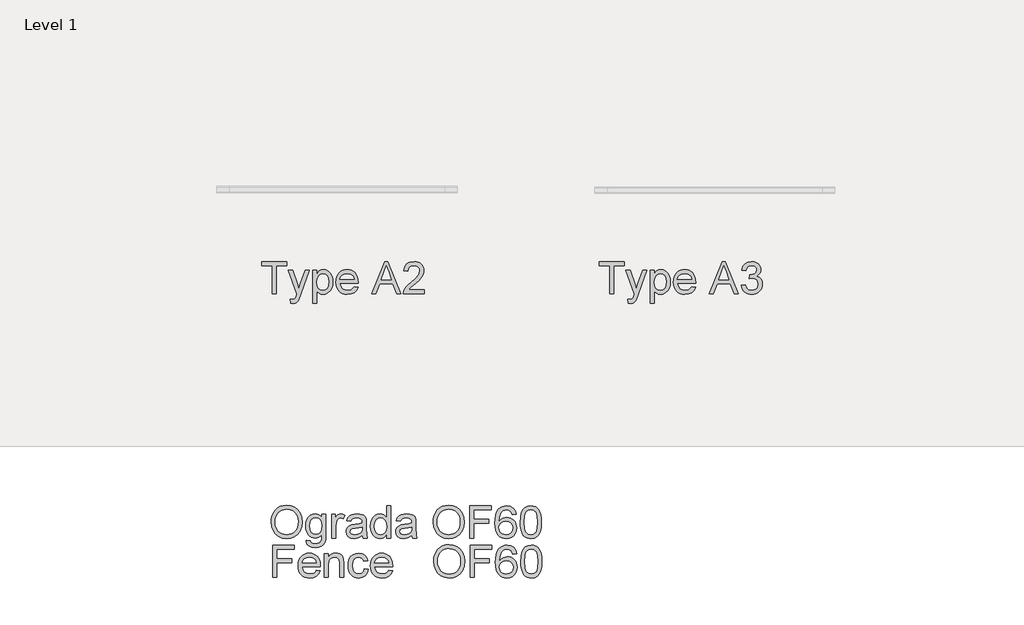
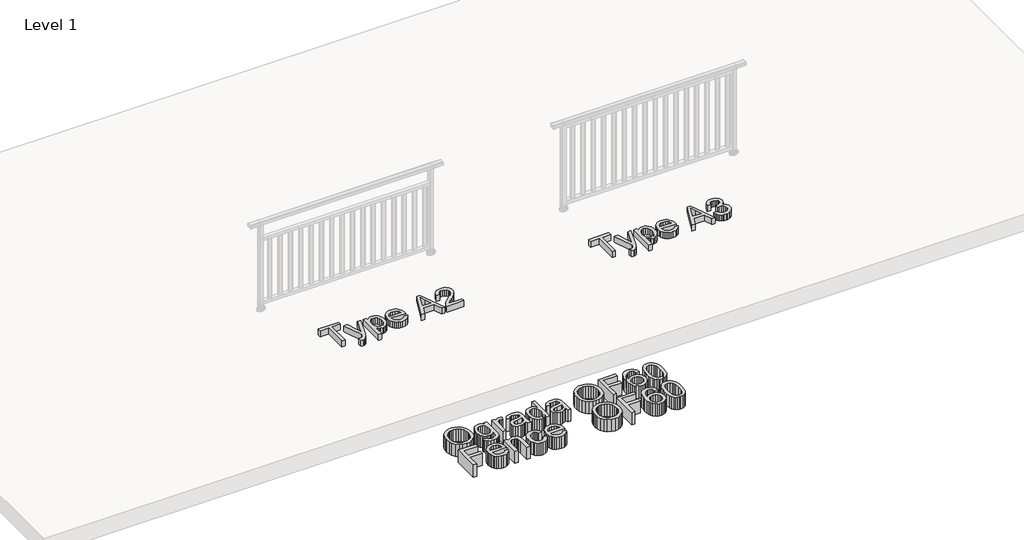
# One storey, part 7 of 9: 3 proxies.
"""IFC4 building model written with IfcOpenShell, lengths in millimetres."""

from ifc_helpers import new_model, si_unit, origin, origin_with_axes, place, context, project, spatial, polyline, outline, extrude, element, save

model = new_model("IFC4")

# Units and contexts
model_context = context("Model", 3, world=origin())
ifc_project = project(units=[si_unit("LENGTHUNIT", "METRE", prefix="MILLI")], contexts=[model_context])

# Site, building, storey
site = spatial("IfcSite", under=ifc_project)
building = spatial("IfcBuilding", under=site)
storey = spatial("IfcBuildingStorey", under=building, Name="Level 1", Elevation=0.0)

# Proxies
placement = place(None, origin())
element("IfcBuildingElementProxy", 1, Name="600mm Arial", ObjectType="600mm Arial", at=placement, inside=storey, context=model_context, shape_type="SweptSolid", body=[
    extrude(outline(polyline([(808.0220395, -4036.6900084), (810.5328342, -4001.3411472), (818.065218, -3970.048185), (830.6191911, -3942.8111218), (848.1947534, -3919.6299576), (869.7388428, -3901.1208947), (894.1983969, -3887.9001355), (921.5734159, -3879.96768), (951.8638997, -3877.3235281), (991.39282, -3882.2899351), (1026.8382503, -3897.1891559), (1056.2688099, -3920.9727269), (1077.7531184, -3952.5921843), (1090.8865056, -3990.520818), (1095.2643014, -4033.2319177), (1090.6565794, -4076.5132344), (1076.8334134, -4114.975297), (1054.5581586, -4146.6499368), (1024.5941701, -4169.5689851), (989.4522425, -4183.4749245), (951.6431705, -4188.1102376), (911.5072448, -4182.9874809), (875.8594795, -4167.6192105), (846.5024962, -4143.3941811), (825.2389169, -4111.7011473), (812.3262589, -4075.2348445), (808.0220395, -4036.6900084)]), holes=[polyline([(845.6931558, -4037.0578904), (847.5762518, -4062.0324794), (853.2255397, -4084.2019681), (862.6410195, -4103.5663566), (875.8226913, -4120.1256449), (891.8462514, -4133.3877909), (909.7873965, -4142.8607522), (929.6461264, -4148.5445291), (951.4224413, -4150.4391213), (973.5712366, -4148.526135), (993.6644914, -4142.7871758), (1011.7022054, -4133.222244), (1027.6843789, -4119.8313393), (1040.7694816, -4102.9225631), (1050.1159835, -4082.8040165), (1055.7238847, -4059.4756995), (1057.5931851, -4032.9376121), (1054.3926117, -3999.5891092), (1044.7908916, -3970.7655549), (1029.0363452, -3947.1935161), (1007.3772927, -3929.5995596), (981.248474, -3918.6458732), (952.0846289, -3914.9946444), (931.0647714, -3916.7535802), (911.5624271, -3922.0303876), (893.577596, -3930.8250665), (877.1102782, -3943.1376171), (863.3652872, -3959.5612489), (853.5474364, -3980.6891717), (847.656726, -4006.5213856), (845.6931558, -4037.0578904)])]), origin_with_axes(), (0.0, 0.0, 1.0), 150.0),
    extrude(outline(polyline([(1132.9354177, -4202.2369063), (1170.606534, -4206.9457958), (1174.7636005, -4218.7180196), (1182.8202162, -4226.8114235), (1198.6575361, -4233.1022057), (1219.3876865, -4235.199133), (1241.4973945, -4232.8262942), (1257.9417196, -4225.7077776), (1269.3460615, -4214.3034357), (1276.3358194, -4199.0731211), (1278.9109934, -4155.1480109), (1266.3754144, -4167.5088459), (1252.3867015, -4176.3380138), (1236.9448548, -4181.6355145), (1220.0498741, -4183.4013481), (1199.3955994, -4181.3458075), (1181.2107325, -4175.1791855), (1165.4952735, -4164.9014823), (1152.2492224, -4150.5126977), (1141.7392937, -4133.2498351), (1134.2322017, -4114.3498976), (1129.7279465, -4093.8128852), (1128.2265281, -4071.638798), (1130.9212638, -4041.224154), (1139.0054706, -4013.2559253), (1152.1940401, -3989.5551278), (1170.2018638, -3971.9427773), (1192.4127393, -3961.016682), (1218.2104642, -3957.3746503), (1235.8274132, -3959.4347894), (1251.8164844, -3965.615207), (1266.1776778, -3975.9159028), (1278.9109934, -3990.336877), (1278.9109934, -3962.0835398), (1316.5821097, -3962.0835398), (1316.5821097, -4153.1614481), (1314.0069357, -4197.2796964), (1306.2814138, -4226.3331769), (1292.9732826, -4245.6009964), (1273.6502808, -4260.3622615), (1248.7354727, -4269.7432524), (1218.6519226, -4272.8702493), (1183.6019655, -4268.4648624), (1156.0016188, -4255.2487018), (1145.6066532, -4245.3273842), (1138.2972978, -4233.1849791), (1134.0735526, -4218.8214865), (1132.9354177, -4202.2369063)]), holes=[polyline([(1165.8976445, -4069.063624), (1169.9167552, -4103.6169404), (1181.9740876, -4127.3729202), (1200.101473, -4141.1409039), (1222.3307425, -4145.7302318), (1244.3944652, -4141.1684951), (1262.613821, -4127.4832848), (1274.8367003, -4104.0308077), (1278.9109934, -4070.16727), (1274.7171386, -4037.5085459), (1262.1355744, -4013.9916893), (1243.6495041, -3999.7822473), (1221.7421313, -3995.0457666), (1200.2302316, -3999.7086709), (1182.1948168, -4013.6973837), (1169.9719375, -4036.8647524), (1165.8976445, -4069.063624)])]), origin_with_axes(), (0.0, 0.0, 1.0), 150.0),
    extrude(outline(polyline([(1373.0887841, -4183.4013481), (1373.0887841, -3962.0835398), (1406.0510109, -3962.0835398), (1406.0510109, -3994.8250374), (1418.2279049, -3975.8423264), (1429.4483058, -3964.6587138), (1440.7054948, -3959.1956661), (1452.9927535, -3957.3746503), (1471.7547352, -3960.280918), (1490.8110226, -3968.9997213), (1478.2294584, -4002.7712885), (1464.9857065, -3996.9771471), (1451.7419547, -3995.0457666), (1440.4939627, -3996.9035707), (1430.4415872, -4002.4769829), (1422.3205921, -4011.342939), (1416.8667416, -4023.0783746), (1412.2866107, -4044.1212247), (1410.7599004, -4067.0770612), (1410.7599004, -4183.4013481), (1373.0887841, -4183.4013481)])), origin_with_axes(), (0.0, 0.0, 1.0), 150.0),
    extrude(outline(polyline([(1655.6221564, -4155.1480109), (1637.6235298, -4170.5806606), (1619.0914743, -4180.6790213), (1599.6029256, -4186.2524336), (1578.7348194, -4188.1102376), (1547.2533177, -4183.6404714), (1524.0307668, -4170.2311727), (1509.7109601, -4149.8689042), (1504.9376912, -4124.5402289), (1506.740313, -4108.9236382), (1512.1481783, -4094.7417873), (1520.4899026, -4082.6016814), (1531.0941011, -4073.110326), (1557.4712401, -4060.7494909), (1590.0655849, -4055.0841082), (1628.5828298, -4049.1244199), (1655.4014272, -4042.134662), (1655.6221564, -4033.7469525), (1653.0285884, -4016.9347453), (1645.2478842, -4005.9350736), (1627.8470658, -3997.7680933), (1603.6036423, -3995.0457666), (1581.1628406, -3996.8575854), (1565.4910676, -4002.2930419), (1554.8040957, -4012.3454174), (1547.317697, -4028.0079933), (1509.6465807, -4023.2991038), (1516.1856832, -4002.6977121), (1525.9437531, -3986.5109043), (1539.8312984, -3974.1316752), (1558.7588271, -3964.9530194), (1581.9078016, -3959.2692425), (1608.4596846, -3957.3746503), (1633.9263158, -3959.0485134), (1654.1138402, -3964.0701026), (1669.3349578, -3971.6208805), (1679.9023681, -3980.8823098), (1686.9105201, -3992.3326369), (1691.4538628, -4006.4501084), (1693.2932727, -4039.4123352), (1693.2932727, -4086.2805014), (1695.2062591, -4151.7267083), (1702.7110518, -4183.4013481), (1665.0399355, -4183.4013481), (1655.6221564, -4155.1480109)]), holes=[polyline([(1655.6221564, -4079.8057783), (1594.8480508, -4091.3572729), (1562.4376471, -4097.464114), (1547.7591554, -4107.3969279), (1542.6088075, -4121.8914785), (1545.4139077, -4133.0934853), (1553.8292084, -4142.272141), (1567.6707684, -4148.3973763), (1586.7546469, -4150.4391213), (1606.9881567, -4148.1858441), (1624.8672216, -4141.4260125), (1639.3617722, -4131.4656074), (1649.4417389, -4119.6106101), (1653.9115052, -4107.3969279), (1655.4014272, -4090.4743561), (1655.6221564, -4079.8057783)])]), origin_with_axes(), (0.0, 0.0, 1.0), 150.0),
    extrude(outline(polyline([(1881.6488543, -4183.4013481), (1881.6488543, -4147.8639474), (1870.3778696, -4165.4716994), (1856.7248491, -4178.0486651), (1840.6897926, -4185.5948445), (1822.2727002, -4188.1102376), (1797.9189122, -4184.4682059), (1775.6252633, -4173.5421106), (1756.7529169, -4156.095307), (1742.6630365, -4132.8911502), (1733.8890509, -4104.8677392), (1730.964389, -4072.9631732), (1733.6591247, -4041.4540803), (1741.7433315, -4012.9984079), (1755.2078125, -3989.214837), (1774.0433707, -3971.7220481), (1796.8244632, -3960.9614997), (1822.1255474, -3957.3746503), (1840.5564354, -3959.9406272), (1856.8536078, -3967.6385579), (1870.6675767, -3979.4383729), (1881.6488543, -3994.3100026), (1881.6488543, -3882.0324177), (1919.3199706, -3882.0324177), (1919.3199706, -4183.4013481), (1881.6488543, -4183.4013481)]), holes=[polyline([(1768.6355053, -4072.8160204), (1772.8845424, -4106.8910902), (1785.6316535, -4131.1253166), (1804.154512, -4145.6106702), (1825.730791, -4150.4391213), (1847.297873, -4145.8313994), (1865.3516819, -4132.0082334), (1877.5745612, -4108.712106), (1881.6488543, -4075.6854999), (1877.5009848, -4039.5778821), (1865.0573763, -4014.5435123), (1846.5437149, -3999.920203), (1824.1856866, -3995.0457666), (1802.3886784, -3999.727065), (1784.5280075, -4013.7709601), (1772.6086309, -4037.894822), (1768.6355053, -4072.8160204)])]), origin_with_axes(), (0.0, 0.0, 1.0), 150.0),
    extrude(outline(polyline([(2117.0933312, -4155.1480109), (2099.0947046, -4170.5806606), (2080.5626491, -4180.6790213), (2061.0741004, -4186.2524336), (2040.2059942, -4188.1102376), (2008.7244924, -4183.6404714), (1985.5019415, -4170.2311727), (1971.1821348, -4149.8689042), (1966.408866, -4124.5402289), (1968.2114877, -4108.9236382), (1973.6193531, -4094.7417873), (1981.9610773, -4082.6016814), (1992.5652758, -4073.110326), (2018.9424149, -4060.7494909), (2051.5367596, -4055.0841082), (2090.0540045, -4049.1244199), (2116.872602, -4042.134662), (2117.0933312, -4033.7469525), (2114.4997631, -4016.9347453), (2106.7190589, -4005.9350736), (2089.3182405, -3997.7680933), (2065.0748171, -3995.0457666), (2042.6340154, -3996.8575854), (2026.9622424, -4002.2930419), (2016.2752704, -4012.3454174), (2008.7888718, -4028.0079933), (1971.1177555, -4023.2991038), (1977.656858, -4002.6977121), (1987.4149279, -3986.5109043), (2001.3024732, -3974.1316752), (2020.2300018, -3964.9530194), (2043.3789764, -3959.2692425), (2069.9308594, -3957.3746503), (2095.3974905, -3959.0485134), (2115.585015, -3964.0701026), (2130.8061325, -3971.6208805), (2141.3735429, -3980.8823098), (2148.3816949, -3992.3326369), (2152.9250375, -4006.4501084), (2154.7644475, -4039.4123352), (2154.7644475, -4086.2805014), (2156.6774339, -4151.7267083), (2164.1822266, -4183.4013481), (2126.5111103, -4183.4013481), (2117.0933312, -4155.1480109)]), holes=[polyline([(2117.0933312, -4079.8057783), (2056.3192256, -4091.3572729), (2023.9088218, -4097.464114), (2009.2303302, -4107.3969279), (2004.0799823, -4121.8914785), (2006.8850825, -4133.0934853), (2015.3003831, -4142.272141), (2029.1419432, -4148.3973763), (2048.2258217, -4150.4391213), (2068.4593314, -4148.1858441), (2086.3383964, -4141.4260125), (2100.832947, -4131.4656074), (2110.9129137, -4119.6106101), (2115.3826799, -4107.3969279), (2116.872602, -4090.4743561), (2117.0933312, -4079.8057783)])]), origin_with_axes(), (0.0, 0.0, 1.0), 150.0),
    extrude(outline(polyline([(2314.8666918, -4036.6900084), (2317.3774864, -4001.3411472), (2324.9098703, -3970.048185), (2337.4638433, -3942.8111218), (2355.0394057, -3919.6299576), (2376.583495, -3901.1208947), (2401.0430492, -3887.9001355), (2428.4180681, -3879.96768), (2458.7085519, -3877.3235281), (2498.2374723, -3882.2899351), (2533.6829025, -3897.1891559), (2563.1134621, -3920.9727269), (2584.5977706, -3952.5921843), (2597.7311579, -3990.520818), (2602.1089536, -4033.2319177), (2597.5012316, -4076.5132344), (2583.6780657, -4114.975297), (2561.4028109, -4146.6499368), (2531.4388223, -4169.5689851), (2496.2968948, -4183.4749245), (2458.4878227, -4188.1102376), (2418.351897, -4182.9874809), (2382.7041317, -4167.6192105), (2353.3471485, -4143.3941811), (2332.0835692, -4111.7011473), (2319.1709111, -4075.2348445), (2314.8666918, -4036.6900084)]), holes=[polyline([(2352.5378081, -4037.0578904), (2354.4209041, -4062.0324794), (2360.0701919, -4084.2019681), (2369.4856718, -4103.5663566), (2382.6673435, -4120.1256449), (2398.6909036, -4133.3877909), (2416.6320487, -4142.8607522), (2436.4907787, -4148.5445291), (2458.2670935, -4150.4391213), (2480.4158889, -4148.526135), (2500.5091436, -4142.7871758), (2518.5468577, -4133.222244), (2534.5290311, -4119.8313393), (2547.6141338, -4102.9225631), (2556.9606358, -4082.8040165), (2562.5685369, -4059.4756995), (2564.4378373, -4032.9376121), (2561.237264, -3999.5891092), (2551.6355439, -3970.7655549), (2535.8809974, -3947.1935161), (2514.221945, -3929.5995596), (2488.0931263, -3918.6458732), (2458.9292811, -3914.9946444), (2437.9094236, -3916.7535802), (2418.4070793, -3922.0303876), (2400.4222483, -3930.8250665), (2383.9549305, -3943.1376171), (2370.2099394, -3959.5612489), (2360.3920887, -3980.6891717), (2354.5013782, -4006.5213856), (2352.5378081, -4037.0578904)])]), origin_with_axes(), (0.0, 0.0, 1.0), 150.0),
    extrude(outline(polyline([(2653.9067385, -4183.4013481), (2653.9067385, -3882.0324177), (2856.3889887, -3882.0324177), (2856.3889887, -3919.703534), (2691.5778548, -3919.703534), (2691.5778548, -4009.1724352), (2832.844541, -4009.1724352), (2832.844541, -4046.8435515), (2691.5778548, -4046.8435515), (2691.5778548, -4183.4013481), (2653.9067385, -4183.4013481)])), origin_with_axes(), (0.0, 0.0, 1.0), 150.0),
    extrude(outline(polyline([(3087.1245761, -3962.0835398), (3049.4534598, -3966.7924294), (3043.3834068, -3948.1224181), (3035.1796383, -3935.375307), (3018.0915197, -3923.6214772), (2997.4349456, -3919.703534), (2979.9237627, -3921.9844023), (2963.4426493, -3928.8270074), (2949.2883895, -3943.2387846), (2937.7276978, -3963.0768212), (2929.9194025, -3991.1370204), (2927.0223318, -4030.2152853), (2942.1330847, -4012.5845407), (2960.2420759, -4000.1593263), (2980.3376299, -3992.7924894), (3001.4080712, -3990.336877), (3019.5078653, -3992.0153386), (3036.2097079, -3997.0507235), (3051.5135989, -4005.4430315), (3065.4195383, -4017.1922627), (3076.9756315, -4031.5994413), (3085.2299838, -4047.9655916), (3090.1825951, -4066.2907135), (3091.8334656, -4086.574807), (3088.7248627, -4113.5497543), (3079.3990542, -4138.5565329), (3064.6285921, -4159.7649299), (3045.1860286, -4175.3447324), (3021.9542806, -4184.9188613), (2995.8162649, -4188.1102376), (2973.3593683, -4185.9949162), (2953.0775741, -4179.6489518), (2934.9708821, -4169.0723444), (2919.0392925, -4154.2650941), (2906.0507588, -4134.6018014), (2896.7732347, -4109.4570671), (2891.2067203, -4078.830891), (2889.3512155, -4042.7232732), (2891.4113546, -4002.2424581), (2897.5917721, -3967.6937402), (2907.892468, -3939.0771195), (2922.3134422, -3916.392596), (2937.9438285, -3901.360018), (2956.0666153, -3890.6224622), (2976.6818026, -3884.1799288), (2999.7893904, -3882.0324177), (3032.8435877, -3887.3483125), (3059.3126972, -3903.295997), (3077.8539498, -3928.6246724), (3087.1245761, -3962.0835398)]), holes=[polyline([(2927.0223318, -4085.9861958), (2929.2020326, -4102.6788413), (2935.741135, -4118.6173288), (2945.8946781, -4132.3209331), (2958.9177007, -4142.3089292), (2974.635459, -4148.4065733), (2992.8732089, -4150.4391213), (3017.7328347, -4146.2268725), (3037.2765657, -4133.590126), (3049.9409034, -4113.7244982), (3054.1623493, -4087.8256058), (3049.9960857, -4062.9659799), (3037.4972949, -4044.0108601), (3017.6224701, -4032.00871), (2991.3281045, -4028.0079933), (2966.5052669, -4032.00871), (2945.7475253, -4044.0108601), (2931.7036301, -4062.5061274), (2927.0223318, -4085.9861958)])]), origin_with_axes(), (0.0, 0.0, 1.0), 150.0),
    extrude(outline(polyline([(3124.7956924, -4035.1449041), (3127.5640044, -3986.9063774), (3135.8689404, -3948.4351178), (3149.627727, -3919.1425139), (3168.7575908, -3898.4399546), (3193.3964874, -3886.1343019), (3223.6823727, -3882.0324177), (3246.8957266, -3884.4604388), (3267.6810593, -3891.7445023), (3285.0634836, -3903.5994996), (3298.0681121, -3919.7403222), (3307.8905614, -3940.0290142), (3315.7264479, -3964.32762), (3320.8584017, -3995.1837223), (3322.569053, -4035.1449041), (3319.8283321, -4083.1075192), (3311.6061695, -4121.4868083), (3297.9301563, -4150.8070033), (3278.8278837, -4171.5923361), (3254.1338048, -4183.9807623), (3223.6823727, -4188.1102376), (3202.9338281, -4186.3168129), (3184.5397284, -4180.9365387), (3168.5000734, -4171.9694151), (3154.8148632, -4159.415442), (3141.6814759, -4136.7217214), (3132.3004851, -4108.4453916), (3126.6718905, -4074.5864525), (3124.7956924, -4035.1449041)]), holes=[polyline([(3162.4668087, -4035.0713277), (3166.8813926, -4094.32792), (3172.3996225, -4114.5959187), (3180.1251444, -4128.623719), (3199.8436194, -4144.9852708), (3223.6823727, -4150.4391213), (3247.521126, -4144.9668767), (3267.2396009, -4128.5501426), (3274.9651228, -4114.4993497), (3280.4833527, -4094.2359495), (3284.8979367, -4035.0713277), (3280.6305055, -3977.1483075), (3275.2962166, -3956.9469875), (3267.8282121, -3942.5857941), (3248.1465254, -3925.424099), (3223.2409143, -3919.703534), (3199.6596784, -3924.7435173), (3180.7137556, -3939.8634673), (3172.7307163, -3955.4984521), (3167.0285454, -3976.5780904), (3162.4668087, -4035.0713277)])]), origin_with_axes(), (0.0, 0.0, 1.0), 150.0),
    extrude(outline(polyline([(822.1487082, -4549.3258016), (822.1487082, -4247.9568712), (1024.6309583, -4247.9568712), (1024.6309583, -4285.6279875), (859.8198245, -4285.6279875), (859.8198245, -4375.0968887), (1001.0865106, -4375.0968887), (1001.0865106, -4412.768005), (859.8198245, -4412.768005), (859.8198245, -4549.3258016), (822.1487082, -4549.3258016)])), origin_with_axes(), (0.0, 0.0, 1.0), 150.0),
    extrude(outline(polyline([(1226.6717501, -4483.4013481), (1263.6071024, -4488.1102376), (1250.2989712, -4515.9405106), (1229.062983, -4536.7442374), (1200.3773844, -4549.7120777), (1164.7204221, -4554.0346912), (1141.3461198, -4552.1699893), (1120.5194003, -4546.5758837), (1102.2402637, -4537.2523744), (1086.5087099, -4524.1994614), (1073.8581678, -4507.7804281), (1064.8220663, -4488.358558), (1059.4004054, -4465.9338511), (1057.5931851, -4440.5063075), (1059.4187995, -4414.2165404), (1064.8956427, -4391.0445732), (1074.0237147, -4370.990406), (1086.8030155, -4354.0540386), (1102.4931826, -4340.5987546), (1120.3538534, -4330.9878375), (1140.3850281, -4325.2212872), (1162.5867065, -4323.2991038), (1184.0733143, -4325.2166887), (1203.5043814, -4330.9694434), (1220.8799079, -4340.5573679), (1236.1998937, -4353.9804622), (1248.7055823, -4370.8800414), (1257.638217, -4390.8974204), (1262.9977978, -4414.0325994), (1264.7843248, -4440.2855783), (1264.5635956, -4450.4391213), (1095.2643014, -4450.4391213), (1101.7850097, -4478.6372763), (1116.9325509, -4499.3674267), (1138.7939385, -4512.1145378), (1165.4561861, -4516.3635749), (1185.5057548, -4514.3954062), (1202.3915384, -4508.4909002), (1216.1135368, -4498.2821748), (1226.6717501, -4483.4013481)]), holes=[polyline([(1095.2643014, -4412.768005), (1227.1132084, -4412.768005), (1222.0180428, -4392.8655891), (1212.0300466, -4378.6285559), (1190.0674915, -4365.3848041), (1162.4395537, -4360.9702201), (1137.046499, -4364.4926902), (1116.0496341, -4375.0601005), (1101.4539159, -4391.5320169), (1095.2643014, -4412.768005)])]), origin_with_axes(), (0.0, 0.0, 1.0), 150.0),
    extrude(outline(polyline([(1302.4554411, -4549.3258016), (1302.4554411, -4328.0079933), (1340.1265574, -4328.0079933), (1340.1265574, -4358.9100809), (1353.2139593, -4343.3302784), (1368.9317176, -4332.2018481), (1387.2798321, -4325.5247899), (1408.2583029, -4323.2991038), (1426.8271466, -4325.0925285), (1443.8324918, -4330.4728027), (1458.0143427, -4338.7685417), (1468.1127035, -4349.3083609), (1479.4066807, -4377.0098751), (1481.3932435, -4413.4301926), (1481.3932435, -4549.3258016), (1443.7221272, -4549.3258016), (1443.7221272, -4418.5069642), (1439.3811197, -4385.1768554), (1433.3754461, -4375.2532386), (1424.0404405, -4367.5553078), (1412.0750786, -4362.616492), (1398.1783362, -4360.9702201), (1376.1146135, -4364.6674342), (1357.3066465, -4375.7590763), (1349.7903575, -4384.8135719), (1344.4215797, -4397.1882025), (1340.1265574, -4431.8978688), (1340.1265574, -4549.3258016), (1302.4554411, -4549.3258016)])), origin_with_axes(), (0.0, 0.0, 1.0), 150.0),
    extrude(outline(polyline([(1674.4577146, -4469.2746795), (1712.1288309, -4473.983569), (1701.6257999, -4507.4884217), (1681.8889309, -4532.8079001), (1654.7760278, -4548.7279934), (1622.1448949, -4554.0346912), (1601.016972, -4552.1837849), (1582.0733485, -4546.631066), (1565.3140244, -4537.3765346), (1550.7389996, -4524.4201906), (1538.9414839, -4508.0057558), (1530.5146869, -4488.3769521), (1525.4586087, -4465.5337795), (1523.7732494, -4439.4762379), (1526.651926, -4405.9529911), (1535.2879558, -4376.8995105), (1549.8192946, -4353.4378363), (1570.3838981, -4336.6900084), (1594.9860066, -4326.64683), (1621.6298601, -4323.2991038), (1653.4608497, -4327.8976287), (1678.9090867, -4341.6932036), (1697.1652307, -4363.9500643), (1707.4199414, -4393.9324469), (1669.748825, -4398.6413364), (1662.915417, -4382.2062083), (1652.2744303, -4370.4247874), (1638.4144761, -4363.3338619), (1621.9241657, -4360.9702201), (1597.5795746, -4365.6239274), (1578.2565728, -4379.5850491), (1565.6474175, -4403.6077434), (1561.4443657, -4438.4461683), (1565.555447, -4473.7536428), (1577.8886908, -4497.8591105), (1596.8622047, -4511.7374588), (1620.8940961, -4516.3635749), (1640.4010389, -4513.4757012), (1656.3947086, -4504.8120802), (1668.0289767, -4490.1519827), (1674.4577146, -4469.2746795)])), origin_with_axes(), (0.0, 0.0, 1.0), 150.0),
    extrude(outline(polyline([(1900.042954, -4483.4013481), (1936.9783063, -4488.1102376), (1923.6701752, -4515.9405106), (1902.434187, -4536.7442374), (1873.7485884, -4549.7120777), (1838.091626, -4554.0346912), (1814.7173238, -4552.1699893), (1793.8906043, -4546.5758837), (1775.6114677, -4537.2523744), (1759.8799139, -4524.1994614), (1747.2293718, -4507.7804281), (1738.1932702, -4488.358558), (1732.7716093, -4465.9338511), (1730.964389, -4440.5063075), (1732.7900034, -4414.2165404), (1738.2668466, -4391.0445732), (1747.3949187, -4370.990406), (1760.1742195, -4354.0540386), (1775.8643866, -4340.5987546), (1793.7250574, -4330.9878375), (1813.7562321, -4325.2212872), (1835.9579105, -4323.2991038), (1857.4445182, -4325.2166887), (1876.8755854, -4330.9694434), (1894.2511119, -4340.5573679), (1909.5710977, -4353.9804622), (1922.0767863, -4370.8800414), (1931.009421, -4390.8974204), (1936.3690018, -4414.0325994), (1938.1555287, -4440.2855783), (1937.9347995, -4450.4391213), (1768.6355053, -4450.4391213), (1775.1562137, -4478.6372763), (1790.3037549, -4499.3674267), (1812.1651424, -4512.1145378), (1838.82739, -4516.3635749), (1858.8769588, -4514.3954062), (1875.7627423, -4508.4909002), (1889.4847408, -4498.2821748), (1900.042954, -4483.4013481)]), holes=[polyline([(1768.6355053, -4412.768005), (1900.4844124, -4412.768005), (1895.3892468, -4392.8655891), (1885.4012506, -4378.6285559), (1863.4386955, -4365.3848041), (1835.8107577, -4360.9702201), (1810.4177029, -4364.4926902), (1789.4208381, -4375.0601005), (1774.8251199, -4391.5320169), (1768.6355053, -4412.768005)])]), origin_with_axes(), (0.0, 0.0, 1.0), 150.0),
    extrude(outline(polyline([(2319.5755813, -4402.614462), (2322.0863759, -4367.2656008), (2329.6187598, -4335.9726385), (2342.1727329, -4308.7355753), (2359.7482952, -4285.5544111), (2381.2923845, -4267.0453482), (2405.7519387, -4253.824589), (2433.1269577, -4245.8921335), (2463.4174414, -4243.2479817), (2502.9463618, -4248.2143886), (2538.3917921, -4263.1136094), (2567.8223517, -4286.8971804), (2589.3066602, -4318.5166379), (2602.4400474, -4356.4452716), (2606.8178432, -4399.1563712), (2602.2101212, -4442.4376879), (2588.3869552, -4480.8997505), (2566.1117004, -4512.5743903), (2536.1477119, -4535.4934386), (2501.0057843, -4549.399378), (2463.1967122, -4554.0346912), (2423.0607866, -4548.9119344), (2387.4130212, -4533.5436641), (2358.056038, -4509.3186347), (2336.7924587, -4477.6256008), (2323.8798007, -4441.159298), (2319.5755813, -4402.614462)]), holes=[polyline([(2357.2466976, -4402.982344), (2359.1297936, -4427.9569329), (2364.7790815, -4450.1264216), (2374.1945613, -4469.4908102), (2387.376233, -4486.0500985), (2403.3997932, -4499.3122444), (2421.3409382, -4508.7852058), (2441.1996682, -4514.4689826), (2462.975983, -4516.3635749), (2485.1247784, -4514.4505885), (2505.2180331, -4508.7116294), (2523.2557472, -4499.1466975), (2539.2379206, -4485.7557929), (2552.3230234, -4468.8470167), (2561.6695253, -4448.7284701), (2567.2774265, -4425.400153), (2569.1467269, -4398.8620656), (2565.9461535, -4365.5135628), (2556.3444334, -4336.6900084), (2540.589887, -4313.1179696), (2518.9308345, -4295.5240132), (2492.8020158, -4284.5703268), (2463.6381706, -4280.919098), (2442.6183131, -4282.6780338), (2423.1159689, -4287.9548411), (2405.1311378, -4296.7495201), (2388.66382, -4309.0620706), (2374.918829, -4325.4857024), (2365.1009782, -4346.6136253), (2359.2102678, -4372.4458391), (2357.2466976, -4402.982344)])]), origin_with_axes(), (0.0, 0.0, 1.0), 150.0),
    extrude(outline(polyline([(2658.6156281, -4549.3258016), (2658.6156281, -4247.9568712), (2861.0978782, -4247.9568712), (2861.0978782, -4285.6279875), (2696.2867444, -4285.6279875), (2696.2867444, -4375.0968887), (2837.5534305, -4375.0968887), (2837.5534305, -4412.768005), (2696.2867444, -4412.768005), (2696.2867444, -4549.3258016), (2658.6156281, -4549.3258016)])), origin_with_axes(), (0.0, 0.0, 1.0), 150.0),
    extrude(outline(polyline([(3091.8334656, -4328.0079933), (3054.1623493, -4332.7168829), (3048.0922964, -4314.0468716), (3039.8885279, -4301.2997605), (3022.8004092, -4289.5459308), (3002.1438352, -4285.6279875), (2984.6326522, -4287.9088559), (2968.1515388, -4294.751461), (2953.9972791, -4309.1632381), (2942.4365874, -4329.0012747), (2934.628292, -4357.0614739), (2931.7312213, -4396.1397389), (2946.8419743, -4378.5089942), (2964.9509655, -4366.0837798), (2985.0465194, -4358.7169429), (3006.1169607, -4356.2613306), (3024.2167549, -4357.9397922), (3040.9185975, -4362.975177), (3056.2224885, -4371.367485), (3070.1284279, -4383.1167162), (3081.6845211, -4397.5238949), (3089.9388733, -4413.8900451), (3094.8914847, -4432.215167), (3096.5423551, -4452.4992605), (3093.4337523, -4479.4742078), (3084.1079437, -4504.4809864), (3069.3374816, -4525.6893835), (3049.8949181, -4541.269186), (3026.6631702, -4550.8433149), (3000.5251544, -4554.0346912), (2978.0682579, -4551.9193697), (2957.7864636, -4545.5734053), (2939.6797717, -4534.9967979), (2923.748182, -4520.1895476), (2910.7596483, -4500.526255), (2901.4821242, -4475.3815206), (2895.9156098, -4444.7553445), (2894.060105, -4408.6477267), (2896.1202442, -4368.1669116), (2902.3006617, -4333.6181938), (2912.6013575, -4305.0015731), (2927.0223318, -4282.3170495), (2942.652718, -4267.2844715), (2960.7755048, -4256.5469158), (2981.3906921, -4250.1043823), (3004.4982799, -4247.9568712), (3037.5524772, -4253.272766), (3064.0215868, -4269.2204505), (3082.5628393, -4294.5491259), (3091.8334656, -4328.0079933)]), holes=[polyline([(2931.7312213, -4451.9106493), (2933.9109221, -4468.6032949), (2940.4500246, -4484.5417823), (2950.6035677, -4498.2453866), (2963.6265903, -4508.2333828), (2979.3443485, -4514.3310269), (2997.5820984, -4516.3635749), (3022.4417243, -4512.151326), (3041.9854553, -4499.5145795), (3054.6497929, -4479.6489518), (3058.8712388, -4453.7500593), (3054.7049752, -4428.8904335), (3042.2061845, -4409.9353137), (3022.3313597, -4397.9331636), (2996.0369941, -4393.9324469), (2971.2141564, -4397.9331636), (2950.4564149, -4409.9353137), (2936.4125197, -4428.430581), (2931.7312213, -4451.9106493)])]), origin_with_axes(), (0.0, 0.0, 1.0), 150.0),
    extrude(outline(polyline([(3129.5045819, -4401.0693576), (3132.2728939, -4352.830831), (3140.57783, -4314.3595713), (3154.3366166, -4285.0669675), (3173.4664803, -4264.3644082), (3198.105377, -4252.0587554), (3228.3912622, -4247.9568712), (3251.6046161, -4250.3848924), (3272.3899488, -4257.6689559), (3289.7723731, -4269.5239532), (3302.7770016, -4285.6647757), (3312.5994509, -4305.9534677), (3320.4353374, -4330.2520735), (3325.5672912, -4361.1081759), (3327.2779425, -4401.0693576), (3324.5372216, -4449.0319727), (3316.3150591, -4487.4112619), (3302.6390459, -4516.7314569), (3283.5367733, -4537.5167896), (3258.8426944, -4549.9052158), (3228.3912622, -4554.0346912), (3207.6427177, -4552.2412665), (3189.2486179, -4546.8609923), (3173.2089629, -4537.8938686), (3159.5237527, -4525.3398956), (3146.3903655, -4502.646175), (3137.0093746, -4474.3698451), (3131.3807801, -4440.510906), (3129.5045819, -4401.0693576)]), holes=[polyline([(3167.1756982, -4400.9957812), (3171.5902822, -4460.2523736), (3177.1085121, -4480.5203722), (3184.834034, -4494.5481726), (3204.5525089, -4510.9097243), (3228.3912622, -4516.3635749), (3252.2300155, -4510.8913302), (3271.9484904, -4494.4745962), (3279.6740123, -4480.4238032), (3285.1922423, -4460.1604031), (3289.6068262, -4400.9957812), (3285.3393951, -4343.0727611), (3280.0051061, -4322.871441), (3272.5371016, -4308.5102476), (3252.8554149, -4291.3485525), (3227.9498038, -4285.6279875), (3204.3685679, -4290.6679708), (3185.4226452, -4305.7879208), (3177.4396059, -4321.4229056), (3171.737435, -4342.502544), (3167.1756982, -4400.9957812)])]), origin_with_axes(), (0.0, 0.0, 1.0), 150.0),
])
element("IfcBuildingElementProxy", 2, Name="600mm Arial", ObjectType="600mm Arial", at=placement, inside=storey, context=model_context, shape_type="SweptSolid", body=[
    extrude(outline(polyline([(816.8238602, -1910.8303484), (816.8238602, -1647.1325343), (717.9371799, -1647.1325343), (717.9371799, -1609.461418), (953.3816568, -1609.461418), (953.3816568, -1647.1325343), (854.4949765, -1647.1325343), (854.4949765, -1910.8303484), (816.8238602, -1910.8303484)])), origin_with_axes(), (0.0, 0.0, 1.0), 75.0),
    extrude(outline(polyline([(991.0527731, -1995.5903601), (986.3438835, -1959.3171954), (1005.4737473, -1962.6281333), (1023.3528122, -1958.4710668), (1034.3156957, -1946.882784), (1044.6163916, -1919.1444815), (1047.5594475, -1910.021008), (967.5083254, -1689.5125401), (1007.2395809, -1689.5125401), (1049.6931631, -1812.3851265), (1064.4820193, -1861.5341611), (1079.2708755, -1818.1240856), (1122.9016801, -1689.5125401), (1162.33863, -1689.5125401), (1085.3041402, -1916.1278492), (1065.2913597, -1965.2768837), (1055.0458461, -1980.9670508), (1043.4391692, -1991.8379638), (1029.9562941, -1998.1839282), (1014.082186, -2000.2992496), (991.0527731, -1995.5903601)])), origin_with_axes(), (0.0, 0.0, 1.0), 75.0),
    extrude(outline(polyline([(1193.5350232, -1995.5903601), (1193.5350232, -1689.5125401), (1231.2061395, -1689.5125401), (1231.2061395, -1726.4478924), (1243.4933982, -1708.2285366), (1257.2521848, -1695.214711), (1273.2918398, -1687.4064157), (1292.4217035, -1684.8036506), (1317.8975317, -1688.4456823), (1340.1727865, -1699.3717776), (1358.3093689, -1716.9197488), (1371.3691797, -1740.4274083), (1379.2602485, -1768.1841048), (1381.8906047, -1798.4791871), (1378.9199576, -1830.6964528), (1370.0080163, -1859.5108101), (1355.4398893, -1883.459928), (1335.5006852, -1901.0814756), (1312.2781342, -1911.9247974), (1287.8599668, -1915.539238), (1270.5419219, -1913.1204138), (1255.081681, -1905.8639415), (1241.8471262, -1894.9102551), (1231.2061395, -1881.3997888), (1231.2061395, -1995.5903601), (1193.5350232, -1995.5903601)]), holes=[polyline([(1231.2061395, -1801.9372779), (1235.2804326, -1835.708845), (1247.5033119, -1859.3268691), (1265.5387267, -1873.2328085), (1287.0506264, -1877.8681217), (1308.912014, -1873.0672616), (1327.4072813, -1858.6646815), (1340.0164366, -1834.1821347), (1344.2194884, -1799.1413747), (1340.1176042, -1765.5537485), (1327.8119515, -1741.6046306), (1309.8041278, -1727.2572328), (1288.5957308, -1722.4747669), (1267.3045603, -1727.5607355), (1248.6069579, -1742.8186412), (1235.5563441, -1767.7702375), (1231.2061395, -1801.9372779)])]), origin_with_axes(), (0.0, 0.0, 1.0), 75.0),
    extrude(outline(polyline([(1579.222507, -1844.9058949), (1616.1578593, -1849.6147844), (1602.8497281, -1877.4450574), (1581.6137399, -1898.2487842), (1552.9281414, -1911.2166245), (1517.271179, -1915.539238), (1493.8968767, -1913.6745361), (1473.0701573, -1908.0804305), (1454.7910206, -1898.7569212), (1439.0594668, -1885.7040082), (1426.4089247, -1869.2849749), (1417.3728232, -1849.8631048), (1411.9511623, -1827.4383979), (1410.143942, -1802.0108542), (1411.9695564, -1775.7210872), (1417.4463996, -1752.54912), (1426.5744716, -1732.4949527), (1439.3537724, -1715.5585854), (1455.0439395, -1702.1033014), (1472.9046104, -1692.4923843), (1492.935785, -1686.725834), (1515.1374634, -1684.8036506), (1536.6240712, -1686.7212355), (1556.0551383, -1692.4739902), (1573.4306648, -1702.0619147), (1588.7506506, -1715.485009), (1601.2563392, -1732.3845881), (1610.1889739, -1752.4019672), (1615.5485547, -1775.5371462), (1617.3350817, -1801.7901251), (1617.1143525, -1811.9436681), (1447.8150583, -1811.9436681), (1454.3357666, -1840.141823), (1469.4833078, -1860.8719735), (1491.3446954, -1873.6190846), (1518.006943, -1877.8681217), (1538.0565117, -1875.899953), (1554.9422953, -1869.995447), (1568.6642937, -1859.7867216), (1579.222507, -1844.9058949)]), holes=[polyline([(1447.8150583, -1774.2725518), (1579.6639654, -1774.2725518), (1574.5687997, -1754.3701359), (1564.5808036, -1740.1331027), (1542.6182484, -1726.8893508), (1514.9903106, -1722.4747669), (1489.5972559, -1725.997237), (1468.600391, -1736.5646473), (1454.0046729, -1753.0365636), (1447.8150583, -1774.2725518)])]), origin_with_axes(), (0.0, 0.0, 1.0), 75.0),
    extrude(outline(polyline([(1742.3413836, -1910.8303484), (1862.638796, -1609.461418), (1894.718106, -1609.461418), (2015.0155184, -1910.8303484), (1975.2106866, -1910.8303484), (1940.7033554, -1816.6525577), (1816.5799702, -1816.6525577), (1782.1462155, -1910.8303484), (1742.3413836, -1910.8303484)]), holes=[polyline([(1830.4123333, -1778.9814414), (1926.9445688, -1778.9814414), (1899.7948776, -1704.8900075), (1878.678451, -1647.1325343), (1859.9164693, -1698.4152844), (1830.4123333, -1778.9814414)])]), origin_with_axes(), (0.0, 0.0, 1.0), 75.0),
    extrude(outline(polyline([(2234.1996112, -1873.1592321), (2234.1996112, -1910.8303484), (2036.4262506, -1910.8303484), (2040.4729525, -1884.8578796), (2049.7619729, -1864.5599905), (2063.3552126, -1844.8691067), (2083.0185053, -1824.2585179), (2110.5176844, -1801.2015139), (2151.1686449, -1765.093896), (2175.5592211, -1738.4408455), (2187.7545093, -1716.8093842), (2191.8196053, -1695.766534), (2187.9844355, -1676.9033847), (2176.4789261, -1661.2224147), (2158.7929992, -1650.6550044), (2136.4165769, -1647.1325343), (2112.9181144, -1650.5722309), (2094.6619704, -1660.8913209), (2082.8805495, -1677.2804638), (2078.8062564, -1698.9303192), (2041.1351401, -1694.2214297), (2050.2678106, -1657.782718), (2058.8141692, -1643.2467807), (2070.0138767, -1631.1664557), (2083.6094157, -1621.6705017), (2099.3432688, -1614.8876774), (2137.2259172, -1609.461418), (2157.415741, -1610.9697342), (2175.3844772, -1615.4946827), (2191.1321259, -1623.0362636), (2204.658687, -1633.5944769), (2215.5227021, -1646.3875732), (2223.282713, -1660.6338035), (2227.9387195, -1676.3331676), (2229.4907216, -1693.4856657), (2227.8168586, -1711.5026864), (2222.7952693, -1729.2070074), (2213.883328, -1747.2148311), (2200.5384086, -1766.1423597), (2179.2656322, -1788.7395113), (2146.5701199, -1817.7562036), (2103.2336209, -1853.9925802), (2086.2374727, -1873.1592321), (2234.1996112, -1873.1592321)])), origin_with_axes(), (0.0, 0.0, 1.0), 75.0),
])
element("IfcBuildingElementProxy", 3, Name="600mm Arial", ObjectType="600mm Arial", at=placement, inside=storey, context=model_context, shape_type="SweptSolid", body=[
    extrude(outline(polyline([(3956.8238602, -1910.8303484), (3956.8238602, -1647.1325343), (3857.9371799, -1647.1325343), (3857.9371799, -1609.461418), (4093.3816568, -1609.461418), (4093.3816568, -1647.1325343), (3994.4949765, -1647.1325343), (3994.4949765, -1910.8303484), (3956.8238602, -1910.8303484)])), origin_with_axes(), (0.0, 0.0, 1.0), 75.0),
    extrude(outline(polyline([(4131.0527731, -1995.5903601), (4126.3438835, -1959.3171954), (4145.4737473, -1962.6281333), (4163.3528122, -1958.4710668), (4174.3156957, -1946.882784), (4184.6163916, -1919.1444815), (4187.5594475, -1910.021008), (4107.5083254, -1689.5125401), (4147.2395809, -1689.5125401), (4189.6931631, -1812.3851265), (4204.4820193, -1861.5341611), (4219.2708755, -1818.1240856), (4262.9016801, -1689.5125401), (4302.33863, -1689.5125401), (4225.3041402, -1916.1278492), (4205.2913597, -1965.2768837), (4195.0458461, -1980.9670508), (4183.4391692, -1991.8379638), (4169.9562941, -1998.1839282), (4154.082186, -2000.2992496), (4131.0527731, -1995.5903601)])), origin_with_axes(), (0.0, 0.0, 1.0), 75.0),
    extrude(outline(polyline([(4333.5350232, -1995.5903601), (4333.5350232, -1689.5125401), (4371.2061395, -1689.5125401), (4371.2061395, -1726.4478924), (4383.4933982, -1708.2285366), (4397.2521848, -1695.214711), (4413.2918398, -1687.4064157), (4432.4217035, -1684.8036506), (4457.8975317, -1688.4456823), (4480.1727865, -1699.3717776), (4498.3093689, -1716.9197488), (4511.3691797, -1740.4274083), (4519.2602485, -1768.1841048), (4521.8906047, -1798.4791871), (4518.9199576, -1830.6964528), (4510.0080163, -1859.5108101), (4495.4398893, -1883.459928), (4475.5006852, -1901.0814756), (4452.2781342, -1911.9247974), (4427.8599668, -1915.539238), (4410.5419219, -1913.1204138), (4395.081681, -1905.8639415), (4381.8471262, -1894.9102551), (4371.2061395, -1881.3997888), (4371.2061395, -1995.5903601), (4333.5350232, -1995.5903601)]), holes=[polyline([(4371.2061395, -1801.9372779), (4375.2804326, -1835.708845), (4387.5033119, -1859.3268691), (4405.5387267, -1873.2328085), (4427.0506264, -1877.8681217), (4448.912014, -1873.0672616), (4467.4072813, -1858.6646815), (4480.0164366, -1834.1821347), (4484.2194884, -1799.1413747), (4480.1176042, -1765.5537485), (4467.8119515, -1741.6046306), (4449.8041278, -1727.2572328), (4428.5957308, -1722.4747669), (4407.3045603, -1727.5607355), (4388.6069579, -1742.8186412), (4375.5563441, -1767.7702375), (4371.2061395, -1801.9372779)])]), origin_with_axes(), (0.0, 0.0, 1.0), 75.0),
    extrude(outline(polyline([(4719.222507, -1844.9058949), (4756.1578593, -1849.6147844), (4742.8497281, -1877.4450574), (4721.6137399, -1898.2487842), (4692.9281414, -1911.2166245), (4657.271179, -1915.539238), (4633.8968767, -1913.6745361), (4613.0701573, -1908.0804305), (4594.7910206, -1898.7569212), (4579.0594668, -1885.7040082), (4566.4089247, -1869.2849749), (4557.3728232, -1849.8631048), (4551.9511623, -1827.4383979), (4550.143942, -1802.0108542), (4551.9695564, -1775.7210872), (4557.4463996, -1752.54912), (4566.5744716, -1732.4949527), (4579.3537724, -1715.5585854), (4595.0439395, -1702.1033014), (4612.9046104, -1692.4923843), (4632.935785, -1686.725834), (4655.1374634, -1684.8036506), (4676.6240712, -1686.7212355), (4696.0551383, -1692.4739902), (4713.4306648, -1702.0619147), (4728.7506506, -1715.485009), (4741.2563392, -1732.3845881), (4750.1889739, -1752.4019672), (4755.5485547, -1775.5371462), (4757.3350817, -1801.7901251), (4757.1143525, -1811.9436681), (4587.8150583, -1811.9436681), (4594.3357666, -1840.141823), (4609.4833078, -1860.8719735), (4631.3446954, -1873.6190846), (4658.006943, -1877.8681217), (4678.0565117, -1875.899953), (4694.9422953, -1869.995447), (4708.6642937, -1859.7867216), (4719.222507, -1844.9058949)]), holes=[polyline([(4587.8150583, -1774.2725518), (4719.6639654, -1774.2725518), (4714.5687997, -1754.3701359), (4704.5808036, -1740.1331027), (4682.6182484, -1726.8893508), (4654.9903106, -1722.4747669), (4629.5972559, -1725.997237), (4608.600391, -1736.5646473), (4594.0046729, -1753.0365636), (4587.8150583, -1774.2725518)])]), origin_with_axes(), (0.0, 0.0, 1.0), 75.0),
    extrude(outline(polyline([(4882.3413836, -1910.8303484), (5002.638796, -1609.461418), (5034.718106, -1609.461418), (5155.0155184, -1910.8303484), (5115.2106866, -1910.8303484), (5080.7033554, -1816.6525577), (4956.5799702, -1816.6525577), (4922.1462155, -1910.8303484), (4882.3413836, -1910.8303484)]), holes=[polyline([(4970.4123333, -1778.9814414), (5066.9445688, -1778.9814414), (5039.7948776, -1704.8900075), (5018.678451, -1647.1325343), (4999.9164693, -1698.4152844), (4970.4123333, -1778.9814414)])]), origin_with_axes(), (0.0, 0.0, 1.0), 75.0),
    extrude(outline(polyline([(5181.1351401, -1830.7792263), (5218.8062564, -1826.0703367), (5227.2399512, -1849.7435431), (5239.5915891, -1865.7280158), (5256.4681757, -1874.8330952), (5278.476716, -1877.8681217), (5304.3020321, -1873.692661), (5324.2412362, -1861.1662791), (5336.9883474, -1842.4778737), (5341.2373844, -1819.8163428), (5337.0251356, -1798.3044431), (5324.388389, -1780.8576395), (5305.2585253, -1769.2969478), (5281.5669248, -1765.4433839), (5255.1529975, -1769.5636623), (5259.3468523, -1731.892546), (5265.380117, -1732.3340044), (5287.9496774, -1729.6300717), (5308.1280048, -1721.5182737), (5322.3650381, -1707.7962753), (5327.1107158, -1688.2617413), (5323.6710191, -1671.9921601), (5313.3519292, -1658.7943935), (5297.6065798, -1650.0479991), (5277.8881048, -1647.1325343), (5258.1328417, -1650.0755902), (5241.9828221, -1658.9047581), (5230.1922042, -1673.6200379), (5223.5151459, -1694.2214297), (5185.8440296, -1689.5125401), (5196.9356718, -1655.6857907), (5216.6725408, -1630.4306917), (5243.6750793, -1614.7037364), (5276.5637297, -1609.461418), (5300.2461331, -1612.045789), (5321.9971561, -1619.798902), (5340.3360735, -1632.0309784), (5353.7821604, -1648.0522393), (5362.0319142, -1666.5107184), (5364.7818321, -1686.0544494), (5362.1698699, -1704.2646081), (5354.3339834, -1720.7825097), (5341.3845372, -1734.853996), (5323.4318958, -1745.724909), (5347.0131317, -1755.2530527), (5364.4875265, -1771.4766486), (5375.3032572, -1793.5127802), (5378.9085007, -1820.4785304), (5377.1058789, -1839.5900001), (5371.6980136, -1857.1931535), (5362.6849047, -1873.2879908), (5350.0665523, -1887.8745119), (5334.6936834, -1899.9778296), (5317.4170252, -1908.6230565), (5298.2365777, -1913.8101926), (5277.1523408, -1915.539238), (5258.0960535, -1914.0631115), (5240.7320233, -1909.6347319), (5225.0602503, -1902.2540994), (5211.0807345, -1891.9212139), (5199.3590944, -1879.2430806), (5190.4609487, -1864.8267049), (5184.3862972, -1848.6720868), (5181.1351401, -1830.7792263)])), origin_with_axes(), (0.0, 0.0, 1.0), 75.0),
])

save(model, "model.ifc")
